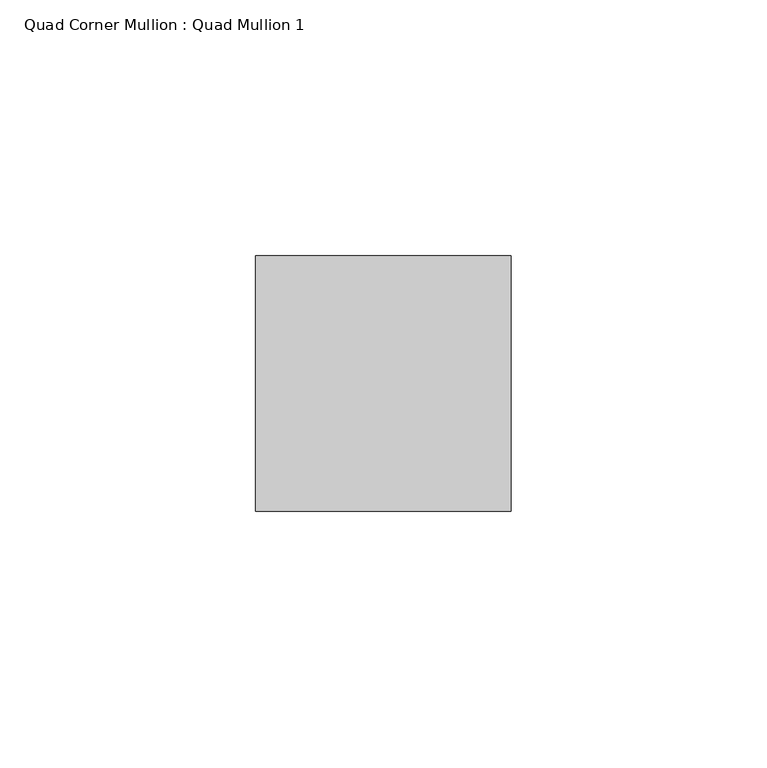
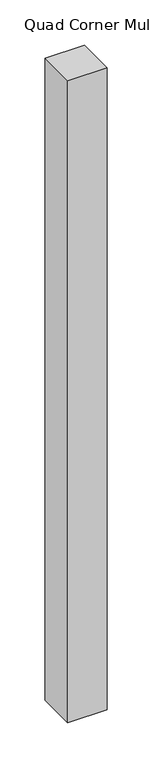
"""IFC4 building model written with IfcOpenShell, lengths in millimetres: member geometry, Quad Corner Mullion : Quad Mullion 1."""

from ifc_helpers import new_model, si_unit, frame, origin, place, context, project, spatial, polyline, outline, extrude, source, transform, mapped, element, save


def quad_corner_mullion_quad_mullion_1_0ee92eae(model_context):
    return source(origin(), model_context, "Body", "SweptSolid", [
        extrude(outline(polyline([(25.0, -25.0), (-25.0, -25.0), (-25.0, 25.0), (25.0, 25.0), (25.0, -25.0)])), frame((0.0, 0.0, -865.0), z_axis=(0.0, 0.0, 1.0), x_axis=(1.0, 0.0, 0.0)), (0.0, 0.0, 1.0), 865.0),
    ])


if __name__ == "__main__":
    model = new_model("IFC4")
    model_context = context("Model", 3, world=origin())
    ifc_project = project(units=[si_unit("LENGTHUNIT", "METRE", prefix="MILLI")], contexts=[model_context])
    site = spatial("IfcSite", under=ifc_project)
    building = spatial("IfcBuilding", under=site)
    placement = place(None, origin())
    quad_corner_mullion_quad_mullion_1_shape = quad_corner_mullion_quad_mullion_1_0ee92eae(model_context)
    element("IfcMember", 1, ObjectType="Quad Corner Mullion : Quad Mullion 1", at=placement, inside=building, context=model_context, shape_type="MappedRepresentation", body=[
        mapped(quad_corner_mullion_quad_mullion_1_shape, transform((0.0, 0.0, 0.0), x_axis=(1.0, 0.0, 0.0), y_axis=(0.0, 1.0, 0.0), z_axis=(0.0, 0.0, 1.0))),
    ])
    save(model, "model.ifc")
